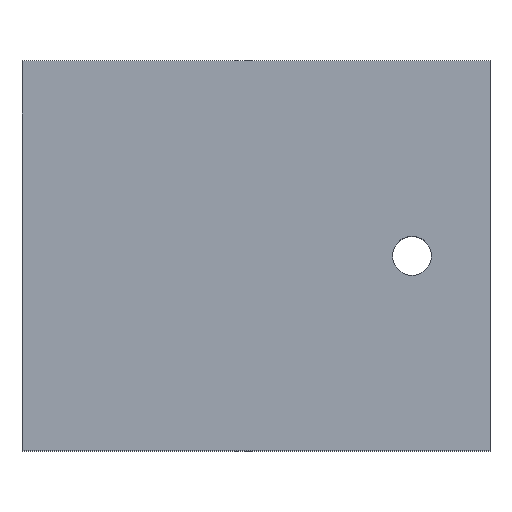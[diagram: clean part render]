
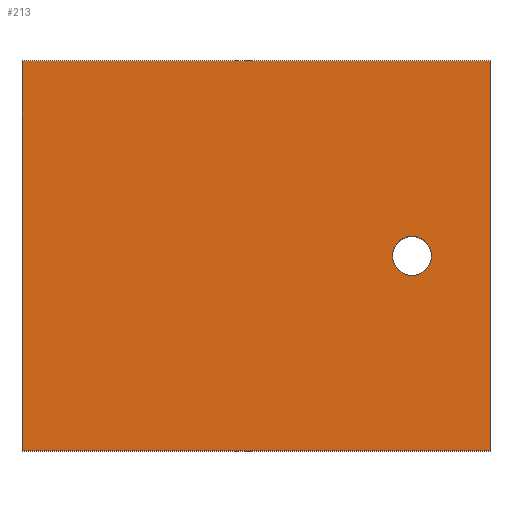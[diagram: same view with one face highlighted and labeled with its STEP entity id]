
A CAD part, top view. The second image highlights one B-rep face of the part: STEP entity #213.
In plain terms, the highlighted planar face has unit normal (0, 0, 1).
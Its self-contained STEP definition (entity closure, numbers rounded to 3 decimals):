
#24 = VERTEX_POINT('',#25);
#25 = CARTESIAN_POINT('',(0.,0.,4.));
#32 = PLANE('',#33);
#33 = AXIS2_PLACEMENT_3D('',#34,#35,#36);
#34 = CARTESIAN_POINT('',(0.,0.,0.));
#35 = DIRECTION('',(1.,0.,-0.));
#36 = DIRECTION('',(0.,0.,1.));
#44 = PLANE('',#45);
#45 = AXIS2_PLACEMENT_3D('',#46,#47,#48);
#46 = CARTESIAN_POINT('',(0.,0.,0.));
#47 = DIRECTION('',(-0.,1.,0.));
#48 = DIRECTION('',(0.,0.,1.));
#85 = VERTEX_POINT('',#86);
#86 = CARTESIAN_POINT('',(0.,10.,4.));
#100 = PLANE('',#101);
#101 = AXIS2_PLACEMENT_3D('',#102,#103,#104);
#102 = CARTESIAN_POINT('',(0.,10.,0.));
#103 = DIRECTION('',(-0.,1.,0.));
#104 = DIRECTION('',(0.,0.,1.));
#112 = EDGE_CURVE('',#24,#85,#113,.T.);
#113 = SURFACE_CURVE('',#114,(#118,#125),.PCURVE_S1.);
#114 = LINE('',#115,#116);
#115 = CARTESIAN_POINT('',(0.,0.,4.));
#116 = VECTOR('',#117,1.);
#117 = DIRECTION('',(-0.,1.,0.));
#118 = PCURVE('',#32,#119);
#119 = DEFINITIONAL_REPRESENTATION('',(#120),#124);
#120 = LINE('',#121,#122);
#121 = CARTESIAN_POINT('',(4.,0.));
#122 = VECTOR('',#123,1.);
#123 = DIRECTION('',(0.,-1.));
#124 = ( GEOMETRIC_REPRESENTATION_CONTEXT(2) 
PARAMETRIC_REPRESENTATION_CONTEXT() REPRESENTATION_CONTEXT('2D SPACE',''
  ) );
#125 = PCURVE('',#126,#131);
#126 = PLANE('',#127);
#127 = AXIS2_PLACEMENT_3D('',#128,#129,#130);
#128 = CARTESIAN_POINT('',(0.,0.,4.));
#129 = DIRECTION('',(0.,0.,1.));
#130 = DIRECTION('',(1.,0.,-0.));
#131 = DEFINITIONAL_REPRESENTATION('',(#132),#136);
#132 = LINE('',#133,#134);
#133 = CARTESIAN_POINT('',(0.,0.));
#134 = VECTOR('',#135,1.);
#135 = DIRECTION('',(0.,1.));
#136 = ( GEOMETRIC_REPRESENTATION_CONTEXT(2) 
PARAMETRIC_REPRESENTATION_CONTEXT() REPRESENTATION_CONTEXT('2D SPACE',''
  ) );
#165 = EDGE_CURVE('',#24,#166,#168,.T.);
#166 = VERTEX_POINT('',#167);
#167 = CARTESIAN_POINT('',(12.,0.,4.));
#168 = SURFACE_CURVE('',#169,(#173,#180),.PCURVE_S1.);
#169 = LINE('',#170,#171);
#170 = CARTESIAN_POINT('',(0.,0.,4.));
#171 = VECTOR('',#172,1.);
#172 = DIRECTION('',(1.,0.,-0.));
#173 = PCURVE('',#44,#174);
#174 = DEFINITIONAL_REPRESENTATION('',(#175),#179);
#175 = LINE('',#176,#177);
#176 = CARTESIAN_POINT('',(4.,0.));
#177 = VECTOR('',#178,1.);
#178 = DIRECTION('',(0.,1.));
#179 = ( GEOMETRIC_REPRESENTATION_CONTEXT(2) 
PARAMETRIC_REPRESENTATION_CONTEXT() REPRESENTATION_CONTEXT('2D SPACE',''
  ) );
#180 = PCURVE('',#126,#181);
#181 = DEFINITIONAL_REPRESENTATION('',(#182),#186);
#182 = LINE('',#183,#184);
#183 = CARTESIAN_POINT('',(0.,0.));
#184 = VECTOR('',#185,1.);
#185 = DIRECTION('',(1.,0.));
#186 = ( GEOMETRIC_REPRESENTATION_CONTEXT(2) 
PARAMETRIC_REPRESENTATION_CONTEXT() REPRESENTATION_CONTEXT('2D SPACE',''
  ) );
#202 = PLANE('',#203);
#203 = AXIS2_PLACEMENT_3D('',#204,#205,#206);
#204 = CARTESIAN_POINT('',(12.,0.,0.));
#205 = DIRECTION('',(1.,0.,-0.));
#206 = DIRECTION('',(0.,0.,1.));
#213 = ADVANCED_FACE('',(#214,#262),#126,.T.);
#214 = FACE_BOUND('',#215,.T.);
#215 = EDGE_LOOP('',(#216,#217,#218,#241));
#216 = ORIENTED_EDGE('',*,*,#112,.F.);
#217 = ORIENTED_EDGE('',*,*,#165,.T.);
#218 = ORIENTED_EDGE('',*,*,#219,.T.);
#219 = EDGE_CURVE('',#166,#220,#222,.T.);
#220 = VERTEX_POINT('',#221);
#221 = CARTESIAN_POINT('',(12.,10.,4.));
#222 = SURFACE_CURVE('',#223,(#227,#234),.PCURVE_S1.);
#223 = LINE('',#224,#225);
#224 = CARTESIAN_POINT('',(12.,0.,4.));
#225 = VECTOR('',#226,1.);
#226 = DIRECTION('',(-0.,1.,0.));
#227 = PCURVE('',#126,#228);
#228 = DEFINITIONAL_REPRESENTATION('',(#229),#233);
#229 = LINE('',#230,#231);
#230 = CARTESIAN_POINT('',(12.,0.));
#231 = VECTOR('',#232,1.);
#232 = DIRECTION('',(0.,1.));
#233 = ( GEOMETRIC_REPRESENTATION_CONTEXT(2) 
PARAMETRIC_REPRESENTATION_CONTEXT() REPRESENTATION_CONTEXT('2D SPACE',''
  ) );
#234 = PCURVE('',#202,#235);
#235 = DEFINITIONAL_REPRESENTATION('',(#236),#240);
#236 = LINE('',#237,#238);
#237 = CARTESIAN_POINT('',(4.,0.));
#238 = VECTOR('',#239,1.);
#239 = DIRECTION('',(0.,-1.));
#240 = ( GEOMETRIC_REPRESENTATION_CONTEXT(2) 
PARAMETRIC_REPRESENTATION_CONTEXT() REPRESENTATION_CONTEXT('2D SPACE',''
  ) );
#241 = ORIENTED_EDGE('',*,*,#242,.F.);
#242 = EDGE_CURVE('',#85,#220,#243,.T.);
#243 = SURFACE_CURVE('',#244,(#248,#255),.PCURVE_S1.);
#244 = LINE('',#245,#246);
#245 = CARTESIAN_POINT('',(0.,10.,4.));
#246 = VECTOR('',#247,1.);
#247 = DIRECTION('',(1.,0.,-0.));
#248 = PCURVE('',#126,#249);
#249 = DEFINITIONAL_REPRESENTATION('',(#250),#254);
#250 = LINE('',#251,#252);
#251 = CARTESIAN_POINT('',(0.,10.));
#252 = VECTOR('',#253,1.);
#253 = DIRECTION('',(1.,0.));
#254 = ( GEOMETRIC_REPRESENTATION_CONTEXT(2) 
PARAMETRIC_REPRESENTATION_CONTEXT() REPRESENTATION_CONTEXT('2D SPACE',''
  ) );
#255 = PCURVE('',#100,#256);
#256 = DEFINITIONAL_REPRESENTATION('',(#257),#261);
#257 = LINE('',#258,#259);
#258 = CARTESIAN_POINT('',(4.,0.));
#259 = VECTOR('',#260,1.);
#260 = DIRECTION('',(0.,1.));
#261 = ( GEOMETRIC_REPRESENTATION_CONTEXT(2) 
PARAMETRIC_REPRESENTATION_CONTEXT() REPRESENTATION_CONTEXT('2D SPACE',''
  ) );
#262 = FACE_BOUND('',#263,.T.);
#263 = EDGE_LOOP('',(#264));
#264 = ORIENTED_EDGE('',*,*,#265,.F.);
#265 = EDGE_CURVE('',#266,#266,#268,.T.);
#266 = VERTEX_POINT('',#267);
#267 = CARTESIAN_POINT('',(10.5,5.,4.));
#268 = SURFACE_CURVE('',#269,(#274,#281),.PCURVE_S1.);
#269 = CIRCLE('',#270,0.5);
#270 = AXIS2_PLACEMENT_3D('',#271,#272,#273);
#271 = CARTESIAN_POINT('',(10.,5.,4.));
#272 = DIRECTION('',(0.,0.,1.));
#273 = DIRECTION('',(1.,0.,-0.));
#274 = PCURVE('',#126,#275);
#275 = DEFINITIONAL_REPRESENTATION('',(#276),#280);
#276 = CIRCLE('',#277,0.5);
#277 = AXIS2_PLACEMENT_2D('',#278,#279);
#278 = CARTESIAN_POINT('',(10.,5.));
#279 = DIRECTION('',(1.,0.));
#280 = ( GEOMETRIC_REPRESENTATION_CONTEXT(2) 
PARAMETRIC_REPRESENTATION_CONTEXT() REPRESENTATION_CONTEXT('2D SPACE',''
  ) );
#281 = PCURVE('',#282,#287);
#282 = CYLINDRICAL_SURFACE('',#283,0.5);
#283 = AXIS2_PLACEMENT_3D('',#284,#285,#286);
#284 = CARTESIAN_POINT('',(10.,5.,-2.));
#285 = DIRECTION('',(0.,0.,1.));
#286 = DIRECTION('',(1.,0.,-0.));
#287 = DEFINITIONAL_REPRESENTATION('',(#288),#292);
#288 = LINE('',#289,#290);
#289 = CARTESIAN_POINT('',(0.,6.));
#290 = VECTOR('',#291,1.);
#291 = DIRECTION('',(1.,0.));
#292 = ( GEOMETRIC_REPRESENTATION_CONTEXT(2) 
PARAMETRIC_REPRESENTATION_CONTEXT() REPRESENTATION_CONTEXT('2D SPACE',''
  ) );
